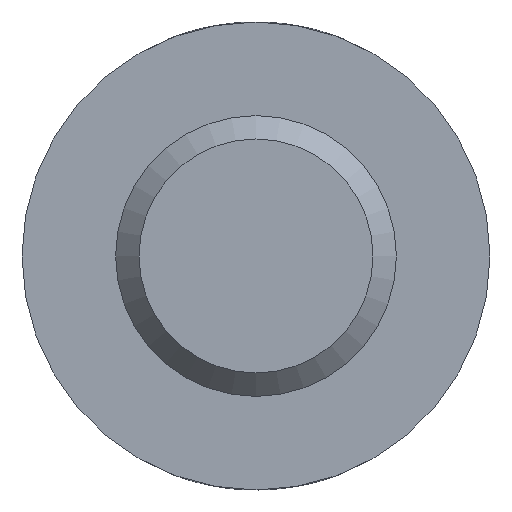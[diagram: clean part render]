
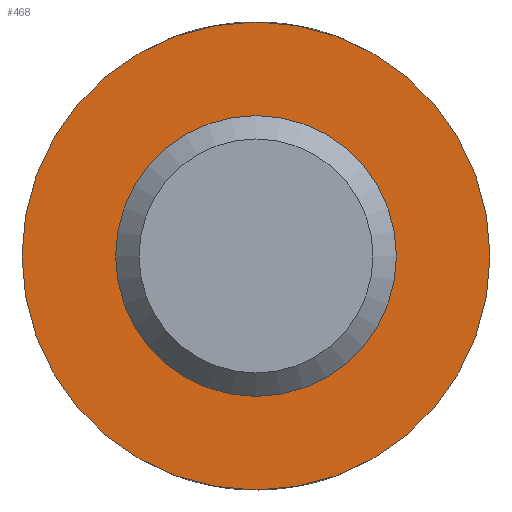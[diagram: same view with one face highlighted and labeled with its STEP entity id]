
A CAD part, front view. The second image highlights one B-rep face of the part: STEP entity #468.
In plain terms, the highlighted planar face has unit normal (0, -1, 0).
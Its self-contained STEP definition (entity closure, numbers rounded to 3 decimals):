
#30=PLANE('',#533);
#37=FACE_BOUND('',#188,.T.);
#154=FACE_OUTER_BOUND('',#187,.T.);
#187=EDGE_LOOP('',(#437));
#188=EDGE_LOOP('',(#438));
#203=CIRCLE('',#513,3.);
#204=CIRCLE('',#519,5.);
#227=VERTEX_POINT('',#757);
#235=VERTEX_POINT('',#940);
#273=EDGE_CURVE('',#227,#227,#203,.T.);
#287=EDGE_CURVE('',#235,#235,#204,.T.);
#437=ORIENTED_EDGE('',*,*,#287,.T.);
#438=ORIENTED_EDGE('',*,*,#273,.F.);
#468=ADVANCED_FACE('',(#154,#37),#30,.T.);
#513=AXIS2_PLACEMENT_3D('',#759,#586,#587);
#519=AXIS2_PLACEMENT_3D('',#941,#608,#609);
#533=AXIS2_PLACEMENT_3D('',#1166,#652,#653);
#586=DIRECTION('center_axis',(0.,-1.,0.));
#587=DIRECTION('ref_axis',(1.,0.,0.));
#608=DIRECTION('center_axis',(0.,-1.,0.));
#609=DIRECTION('ref_axis',(1.,0.,0.));
#652=DIRECTION('center_axis',(0.,-1.,0.));
#653=DIRECTION('ref_axis',(0.,0.,-1.));
#757=CARTESIAN_POINT('',(-3.,0.,0.));
#759=CARTESIAN_POINT('Origin',(0.,0.,0.));
#940=CARTESIAN_POINT('',(-5.,0.,0.));
#941=CARTESIAN_POINT('Origin',(0.,0.,0.));
#1166=CARTESIAN_POINT('Origin',(3.,0.,0.));
